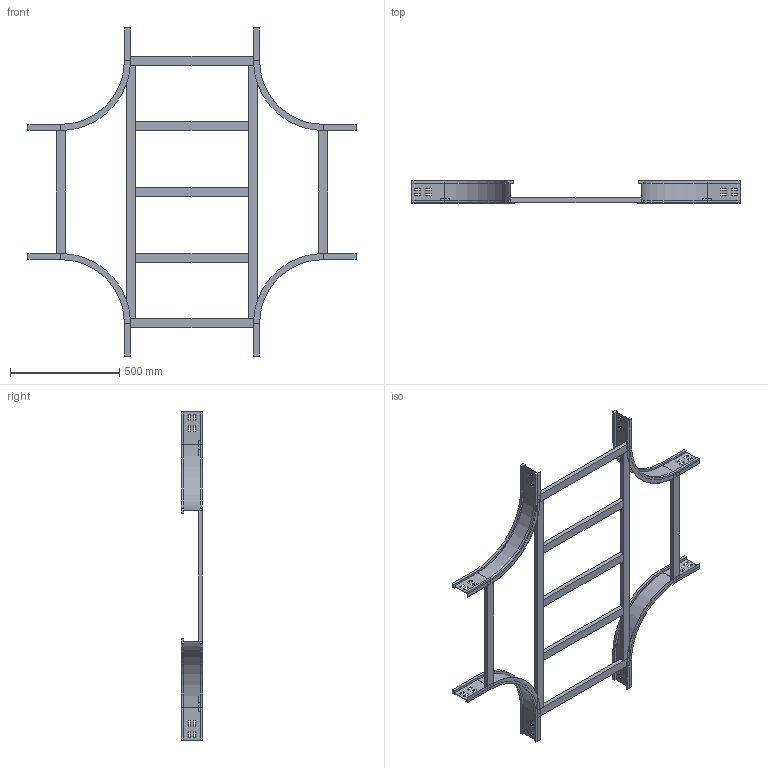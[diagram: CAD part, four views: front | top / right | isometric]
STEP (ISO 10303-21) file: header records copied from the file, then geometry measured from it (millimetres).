
FILE_DESCRIPTION (( 'STEP AP214' ), '1' );
FILE_NAME ('17S3D600.step', '2025-02-21T16:16:05', ( '' ), ( '' ), 'SwSTEP 2.0', 'SolidWorks 2023', '' );
FILE_SCHEMA (( 'AUTOMOTIVE_DESIGN' ));
Length unit declared in the file: millimetre
Products named in the file (5): TRAVERSINO_LONG._R300+600; TRAVERSINO_INTERMEDIO_X_R300+600; TRAVERSINO_600; 17S3D600; LONGH.INTERNO 90°_H100_R300
Assembly tree (13 placements, depth 2):
  17S3D600
    LONGH.INTERNO 90°_H100_R300  x4
    TRAVERSINO_600  x4
    TRAVERSINO_INTERMEDIO_X_R300+600  x3
    TRAVERSINO_LONG._R300+600  x2
Bounding box: 1500 x 100 x 1500 mm (x, y, z)
Volume: 6694124.2 mm3; surface area: 1683688.2 mm2
Topology: 13 solids, 13 shells, 334 faces, 828 edges, 520 vertices
Faces by surface type: plane 310, cylinder 24
Entity records: 2778 total; most frequent: CARTESIAN_POINT 456, DIRECTION 436, ORIENTED_EDGE 432, EDGE_CURVE 216, VECTOR 204, LINE 204, VERTEX_POINT 136, AXIS2_PLACEMENT_3D 116
